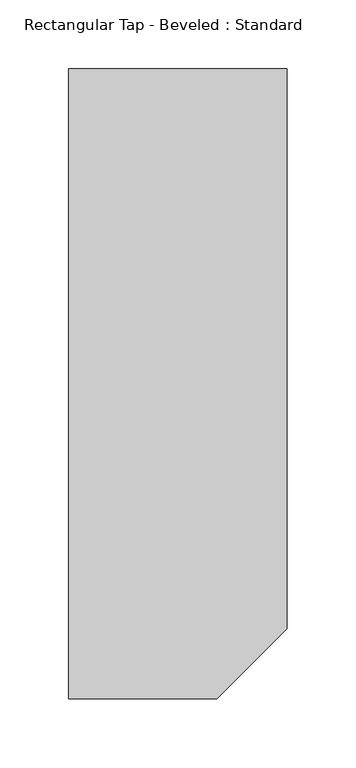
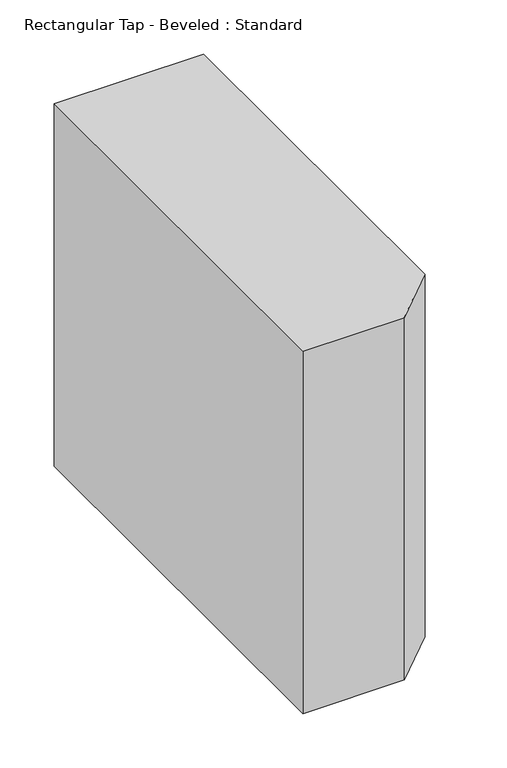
"""IFC4 building model written with IfcOpenShell, lengths in millimetres: duct fitting geometry, Rectangular Tap - Beveled : Standard."""

from ifc_helpers import new_model, si_unit, frame, origin, place, context, project, spatial, polyline, outline, extrude, source, transform, mapped, element, save


def rectangular_tap_beveled_standard_d607cfb3(model_context):
    return source(origin(), model_context, "Body", "SweptSolid", [
        extrude(outline(polyline([(50.8, 203.2), (50.8, -203.2), (0.0, -254.0), (-107.696, -254.0), (-107.696, 203.2), (50.8, 203.2)])), frame((0.0, 0.0, -203.2), z_axis=(0.0, 0.0, 1.0), x_axis=(1.0, 0.0, 0.0)), (0.0, 0.0, 1.0), 406.4),
    ])


if __name__ == "__main__":
    model = new_model("IFC4")
    model_context = context("Model", 3, world=origin())
    ifc_project = project(units=[si_unit("LENGTHUNIT", "METRE", prefix="MILLI")], contexts=[model_context])
    site = spatial("IfcSite", under=ifc_project)
    building = spatial("IfcBuilding", under=site)
    placement = place(None, origin())
    rectangular_tap_beveled_standard_shape = rectangular_tap_beveled_standard_d607cfb3(model_context)
    element("IfcDuctFitting", 1, ObjectType="Rectangular Tap - Beveled : Standard", at=placement, inside=building, context=model_context, shape_type="MappedRepresentation", body=[
        mapped(rectangular_tap_beveled_standard_shape, transform((0.0, 0.0, 0.0), x_axis=(1.0, 0.0, 0.0), y_axis=(0.0, 1.0, 0.0), z_axis=(0.0, 0.0, 1.0))),
    ])
    save(model, "model.ifc")
